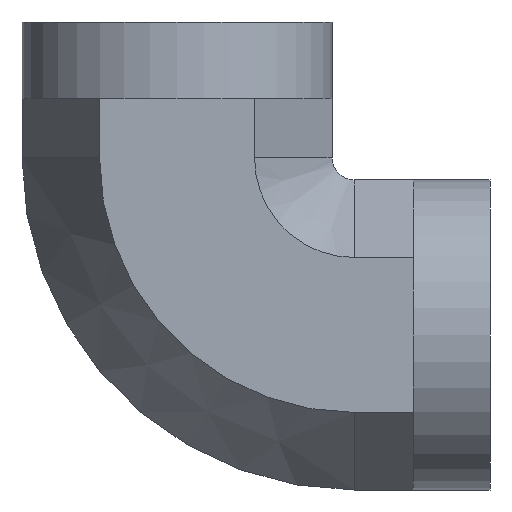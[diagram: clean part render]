
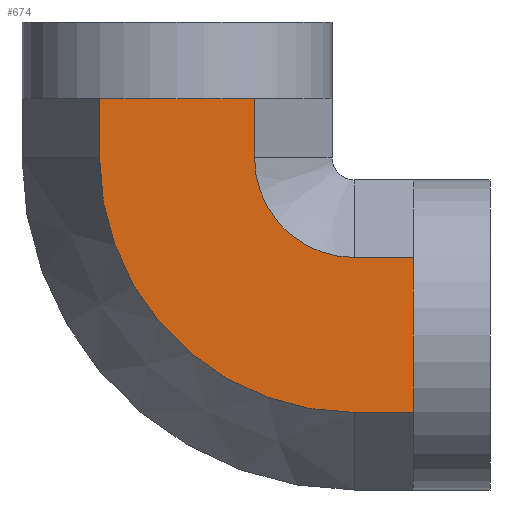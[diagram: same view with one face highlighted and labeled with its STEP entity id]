
A CAD part, front view. The second image highlights one B-rep face of the part: STEP entity #674.
In plain terms, the highlighted planar face has unit normal (0, -1, 0).
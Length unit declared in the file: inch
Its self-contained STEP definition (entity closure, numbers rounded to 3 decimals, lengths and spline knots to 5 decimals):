
#38=DIRECTION('',(1.,0.,0.));
#39=VECTOR('',#38,0.1925);
#40=CARTESIAN_POINT('',(0.5775,-0.4375,-0.25259));
#41=LINE('',#40,#39);
#112=DIRECTION('',(0.,0.,-1.));
#113=VECTOR('',#112,0.50518);
#114=CARTESIAN_POINT('',(0.77,-0.4375,0.25259));
#115=LINE('',#114,#113);
#116=CARTESIAN_POINT('',(0.5775,-0.4375,0.5775));
#117=DIRECTION('',(0.,1.,0.));
#118=DIRECTION('',(0.,0.,-1.));
#119=AXIS2_PLACEMENT_3D('',#116,#117,#118);
#121=DIRECTION('',(0.,0.,-1.));
#122=VECTOR('',#121,0.1925);
#123=CARTESIAN_POINT('',(0.25259,-0.4375,0.77));
#124=LINE('',#123,#122);
#125=CARTESIAN_POINT('',(0.5775,-0.4375,0.5775));
#126=DIRECTION('',(0.,-1.,0.));
#127=DIRECTION('',(-1.,0.,0.));
#128=AXIS2_PLACEMENT_3D('',#125,#126,#127);
#130=DIRECTION('',(1.,0.,0.));
#131=VECTOR('',#130,0.1925);
#132=CARTESIAN_POINT('',(0.5775,-0.4375,0.25259));
#133=LINE('',#132,#131);
#228=DIRECTION('',(-1.,0.,0.));
#229=VECTOR('',#228,0.50518);
#230=CARTESIAN_POINT('',(0.25259,-0.4375,0.77));
#231=LINE('',#230,#229);
#246=DIRECTION('',(0.,0.,-1.));
#247=VECTOR('',#246,0.1925);
#248=CARTESIAN_POINT('',(-0.25259,-0.4375,0.77));
#249=LINE('',#248,#247);
#393=CARTESIAN_POINT('',(0.77,-0.4375,-0.25259));
#394=VERTEX_POINT('',#393);
#395=CARTESIAN_POINT('',(0.77,-0.4375,0.25259));
#396=VERTEX_POINT('',#395);
#399=CARTESIAN_POINT('',(0.5775,-0.4375,-0.25259));
#400=VERTEX_POINT('',#399);
#415=CARTESIAN_POINT('',(0.5775,-0.4375,0.25259));
#416=VERTEX_POINT('',#415);
#417=CARTESIAN_POINT('',(-0.25259,-0.4375,0.5775));
#418=VERTEX_POINT('',#417);
#419=CARTESIAN_POINT('',(-0.25259,-0.4375,0.77));
#420=VERTEX_POINT('',#419);
#421=CARTESIAN_POINT('',(0.25259,-0.4375,0.77));
#422=VERTEX_POINT('',#421);
#423=CARTESIAN_POINT('',(0.25259,-0.4375,0.5775));
#424=VERTEX_POINT('',#423);
#653=CARTESIAN_POINT('',(1.02,-0.4375,-0.25259));
#654=DIRECTION('',(0.,-1.,0.));
#655=DIRECTION('',(0.,0.,1.));
#656=AXIS2_PLACEMENT_3D('',#653,#654,#655);
#657=PLANE('',#656);
#659=ORIENTED_EDGE('',*,*,#658,.T.);
#660=ORIENTED_EDGE('',*,*,#540,.F.);
#662=ORIENTED_EDGE('',*,*,#661,.T.);
#664=ORIENTED_EDGE('',*,*,#663,.F.);
#666=ORIENTED_EDGE('',*,*,#665,.F.);
#668=ORIENTED_EDGE('',*,*,#667,.T.);
#670=ORIENTED_EDGE('',*,*,#669,.T.);
#671=ORIENTED_EDGE('',*,*,#635,.T.);
#672=EDGE_LOOP('',(#659,#660,#662,#664,#666,#668,#670,#671));
#673=FACE_OUTER_BOUND('',#672,.F.);
#674=ADVANCED_FACE('',(#673),#657,.T.);
#120=CIRCLE('',#119,0.83009);
#129=CIRCLE('',#128,0.32491);
#540=EDGE_CURVE('',#400,#394,#41,.T.);
#635=EDGE_CURVE('',#416,#396,#133,.T.);
#658=EDGE_CURVE('',#396,#394,#115,.T.);
#661=EDGE_CURVE('',#400,#418,#120,.T.);
#663=EDGE_CURVE('',#420,#418,#249,.T.);
#665=EDGE_CURVE('',#422,#420,#231,.T.);
#667=EDGE_CURVE('',#422,#424,#124,.T.);
#669=EDGE_CURVE('',#424,#416,#129,.T.);
